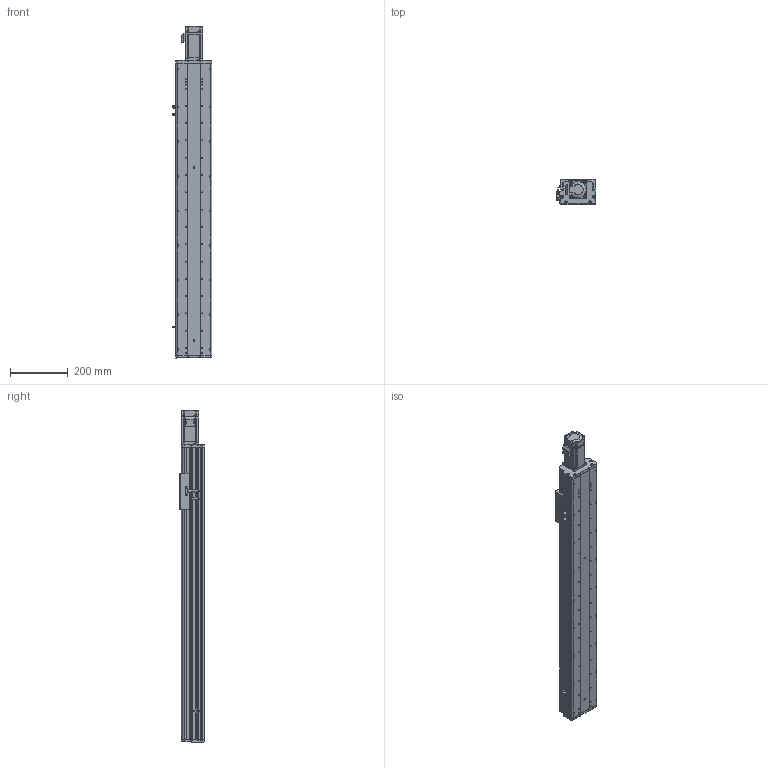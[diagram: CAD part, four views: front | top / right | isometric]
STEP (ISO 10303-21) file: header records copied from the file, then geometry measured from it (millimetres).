
FILE_DESCRIPTION (( 'STEP AP214' ), '1' );
FILE_NAME ('KSD125S-S750-MN-CM.STEP', '2017-08-07T06:17:17', ( '微软用户' ), ( '微软中国' ), 'SwSTEP 2.0', 'SolidWorks 2014', '' );
FILE_SCHEMA (( 'AUTOMOTIVE_DESIGN' ));
Length unit declared in the file: millimetre
Products named in the file (12): KSD125S-750行程丝杆防尘盖-直连不带电机座; KSD125S-750行程丝杆底板-直连不带电机座; 125宽模组 - 直连不带电机座电机安装板; MHMD042G1CA_2_03; 拸萇儂釱滅袉菜; 覜茼え68遵圉猾敕; U倰嫖萇假蚾璃; U倰嫖萇EEㄜSX672; KSD125-賑雄釱1; CS-34X32-10X14; 125-帣傷啣1; KSD125S-S750-MN-CM
Assembly tree (15 placements, depth 2):
  KSD125S-S750-MN-CM
    125-帣傷啣1
    CS-34X32-10X14
    KSD125-賑雄釱1
    U倰嫖萇EEㄜSX672  x3
    U倰嫖萇假蚾璃  x3
    覜茼え68遵圉猾敕
    拸萇儂釱滅袉菜
    MHMD042G1CA_2_03
    125宽模组 - 直连不带电机座电机安装板
    KSD125S-750行程丝杆底板-直连不带电机座
    KSD125S-750行程丝杆防尘盖-直连不带电机座
Bounding box: 138.7 x 86 x 1151.5 mm (x, y, z)
Volume: 3319223.8 mm3; surface area: 1089742.8 mm2
Topology: 14 solids, 17 shells, 1486 faces, 4305 edges, 2833 vertices
Faces by surface type: cylinder 752, plane 621, cone 91, bspline 22
Entity records: 52542 total; most frequent: CARTESIAN_POINT 11184, DIRECTION 7453, ORIENTED_EDGE 7118, EDGE_CURVE 3637, AXIS2_PLACEMENT_3D 2744, VERTEX_POINT 2425, VECTOR 1965, LINE 1965
